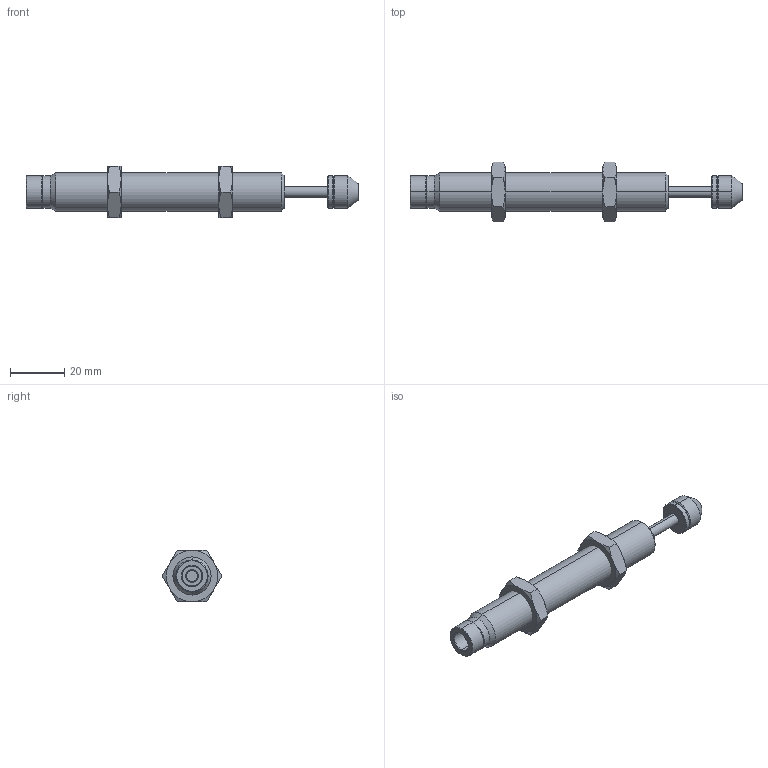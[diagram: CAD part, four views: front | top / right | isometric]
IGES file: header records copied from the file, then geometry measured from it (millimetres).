
Start section: SolidWorks IGES file using analytic representation for surfaces
Global section: file name: D:\IGS跡宒\AC1416.IGS,1; native system: 5HSolidWorks 2013; preprocessor: SolidWorks 2013; author: Administrator; date: 160406.151811; units: inch
Bounding box: 122.2 x 21.94 x 19 mm (x, y, z)
Surface area: 7440.2 mm2 (no closed solid volume)
Topology: 0 solids, 0 shells, 99 faces, 1488 edges, 1488 vertices
Faces by surface type: revolution 74, bspline 25
